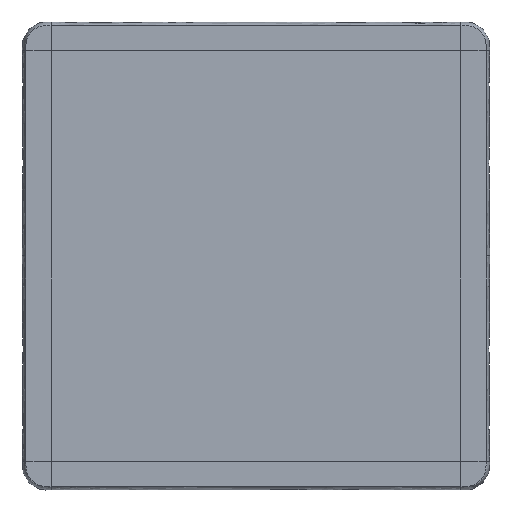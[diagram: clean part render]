
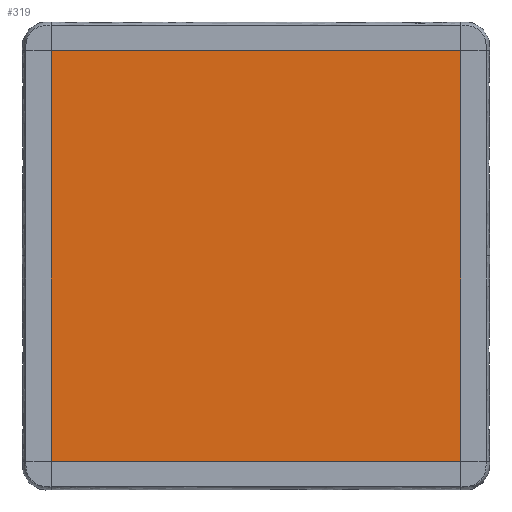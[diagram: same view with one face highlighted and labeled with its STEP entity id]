
A CAD part, top view. The second image highlights one B-rep face of the part: STEP entity #319.
In plain terms, the highlighted planar face has unit normal (0, 0, 1).
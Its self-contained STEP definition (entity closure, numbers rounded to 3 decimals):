
#319=ADVANCED_FACE('',(#451),#2155,.T.);
#451=FACE_OUTER_BOUND('',#583,.T.);
#583=EDGE_LOOP('',(#767,#768,#769,#770,#771,#772,#773,#774));
#767=ORIENTED_EDGE('',*,*,#1423,.T.);
#768=ORIENTED_EDGE('',*,*,#1424,.T.);
#769=ORIENTED_EDGE('',*,*,#1425,.T.);
#770=ORIENTED_EDGE('',*,*,#1426,.T.);
#771=ORIENTED_EDGE('',*,*,#1427,.T.);
#772=ORIENTED_EDGE('',*,*,#1428,.T.);
#773=ORIENTED_EDGE('',*,*,#1429,.T.);
#774=ORIENTED_EDGE('',*,*,#1430,.T.);
#1423=EDGE_CURVE('',#1911,#1912,#1751,.T.);
#1424=EDGE_CURVE('',#1912,#1913,#1752,.T.);
#1425=EDGE_CURVE('',#1913,#1914,#1753,.T.);
#1426=EDGE_CURVE('',#1914,#1915,#1754,.T.);
#1427=EDGE_CURVE('',#1915,#1916,#1755,.T.);
#1428=EDGE_CURVE('',#1916,#1917,#1756,.T.);
#1429=EDGE_CURVE('',#1917,#1918,#1757,.T.);
#1430=EDGE_CURVE('',#1918,#1911,#1758,.T.);
#1751=B_SPLINE_CURVE_WITH_KNOTS('',1,(#8015,#8016),.UNSPECIFIED.,.F.,.F.,
(2,2),(-783.993,-783.951),.UNSPECIFIED.);
#1752=B_SPLINE_CURVE_WITH_KNOTS('',1,(#8017,#8018),.UNSPECIFIED.,.F.,.F.,
(2,2),(-783.951,-408.517),.UNSPECIFIED.);
#1753=B_SPLINE_CURVE_WITH_KNOTS('',1,(#8019,#8020),.UNSPECIFIED.,.F.,.F.,
(2,2),(-408.517,-408.475),.UNSPECIFIED.);
#1754=B_SPLINE_CURVE_WITH_KNOTS('',1,(#8021,#8022),.UNSPECIFIED.,.F.,.F.,
(2,2),(-408.475,-32.322),.UNSPECIFIED.);
#1755=B_SPLINE_CURVE_WITH_KNOTS('',1,(#8023,#8024),.UNSPECIFIED.,.F.,.F.,
(2,2),(37.507,37.549),.UNSPECIFIED.);
#1756=B_SPLINE_CURVE_WITH_KNOTS('',1,(#8025,#8026),.UNSPECIFIED.,.F.,.F.,
(2,2),(37.549,412.983),.UNSPECIFIED.);
#1757=B_SPLINE_CURVE_WITH_KNOTS('',1,(#8027,#8028),.UNSPECIFIED.,.F.,.F.,
(2,2),(412.983,413.025),.UNSPECIFIED.);
#1758=B_SPLINE_CURVE_WITH_KNOTS('',1,(#8029,#8030),.UNSPECIFIED.,.F.,.F.,
(2,2),(413.025,789.178),.UNSPECIFIED.);
#1911=VERTEX_POINT('',#7977);
#1912=VERTEX_POINT('',#7978);
#1913=VERTEX_POINT('',#7979);
#1914=VERTEX_POINT('',#7980);
#1915=VERTEX_POINT('',#7981);
#1916=VERTEX_POINT('',#7982);
#1917=VERTEX_POINT('',#7983);
#1918=VERTEX_POINT('',#7984);
#2155=PLANE('',#2201);
#2201=AXIS2_PLACEMENT_3D('',#2259,#2230,$);
#2230=DIRECTION('',(0.,0.,1.));
#2259=CARTESIAN_POINT('',(-267.971,-268.338,400.));
#7977=CARTESIAN_POINT('',(262.717,263.076,400.));
#7978=CARTESIAN_POINT('',(262.658,263.076,400.));
#7979=CARTESIAN_POINT('',(-262.658,263.076,400.));
#7980=CARTESIAN_POINT('',(-262.717,263.076,400.));
#7981=CARTESIAN_POINT('',(-262.717,-263.076,400.));
#7982=CARTESIAN_POINT('',(-262.658,-263.076,400.));
#7983=CARTESIAN_POINT('',(262.658,-263.076,400.));
#7984=CARTESIAN_POINT('',(262.717,-263.076,400.));
#8015=CARTESIAN_POINT('',(262.717,263.076,400.));
#8016=CARTESIAN_POINT('',(262.658,263.076,400.));
#8017=CARTESIAN_POINT('',(262.658,263.076,400.));
#8018=CARTESIAN_POINT('',(-262.658,263.076,400.));
#8019=CARTESIAN_POINT('',(-262.658,263.076,400.));
#8020=CARTESIAN_POINT('',(-262.717,263.076,400.));
#8021=CARTESIAN_POINT('',(-262.717,263.076,400.));
#8022=CARTESIAN_POINT('',(-262.717,-263.076,400.));
#8023=CARTESIAN_POINT('',(-262.717,-263.076,400.));
#8024=CARTESIAN_POINT('',(-262.658,-263.076,400.));
#8025=CARTESIAN_POINT('',(-262.658,-263.076,400.));
#8026=CARTESIAN_POINT('',(262.658,-263.076,400.));
#8027=CARTESIAN_POINT('',(262.658,-263.076,400.));
#8028=CARTESIAN_POINT('',(262.717,-263.076,400.));
#8029=CARTESIAN_POINT('',(262.717,-263.076,400.));
#8030=CARTESIAN_POINT('',(262.717,263.076,400.));
